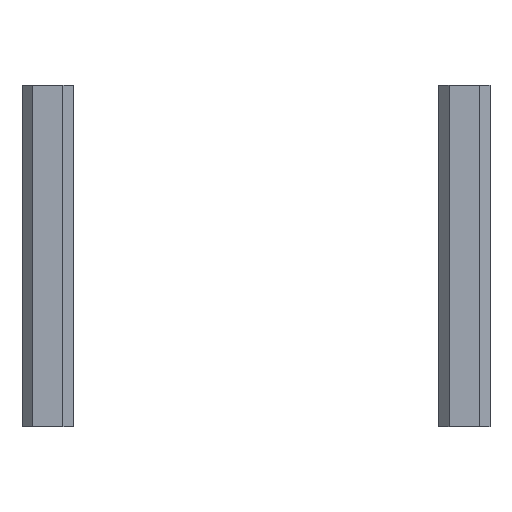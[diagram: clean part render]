
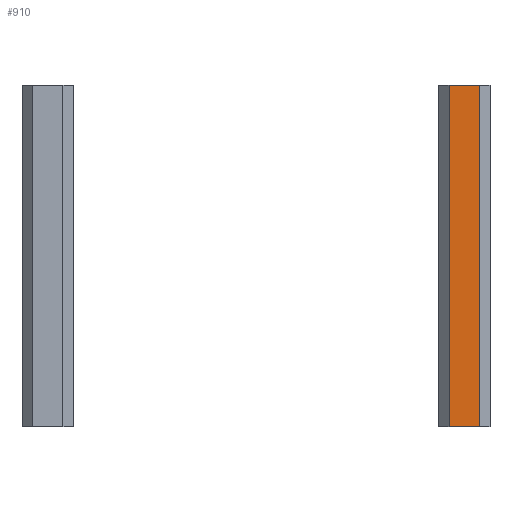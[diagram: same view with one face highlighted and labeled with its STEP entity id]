
A CAD part, left-side view. The second image highlights one B-rep face of the part: STEP entity #910.
In plain terms, the highlighted planar face has unit normal (-1, 0, 0).
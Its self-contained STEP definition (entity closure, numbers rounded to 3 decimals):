
#66=PLANE('',#1026);
#118=FACE_OUTER_BOUND('',#176,.T.);
#176=EDGE_LOOP('',(#717,#718,#719,#720));
#248=LINE('',#1429,#352);
#251=LINE('',#1435,#355);
#252=LINE('',#1437,#356);
#253=LINE('',#1438,#357);
#352=VECTOR('',#1166,10.);
#355=VECTOR('',#1171,10.);
#356=VECTOR('',#1172,10.);
#357=VECTOR('',#1173,10.);
#468=VERTEX_POINT('',#1426);
#469=VERTEX_POINT('',#1428);
#471=VERTEX_POINT('',#1434);
#472=VERTEX_POINT('',#1436);
#560=EDGE_CURVE('',#468,#469,#248,.T.);
#563=EDGE_CURVE('',#471,#468,#251,.T.);
#564=EDGE_CURVE('',#472,#471,#252,.T.);
#565=EDGE_CURVE('',#469,#472,#253,.T.);
#717=ORIENTED_EDGE('',*,*,#560,.F.);
#718=ORIENTED_EDGE('',*,*,#563,.F.);
#719=ORIENTED_EDGE('',*,*,#564,.F.);
#720=ORIENTED_EDGE('',*,*,#565,.F.);
#910=ADVANCED_FACE('',(#118),#66,.T.);
#1026=AXIS2_PLACEMENT_3D('',#1433,#1169,#1170);
#1166=DIRECTION('',(0.,0.,-1.));
#1169=DIRECTION('center_axis',(-1.,0.,0.));
#1170=DIRECTION('ref_axis',(0.,-1.,0.));
#1171=DIRECTION('',(0.,-1.,0.));
#1172=DIRECTION('',(0.,0.,1.));
#1173=DIRECTION('',(0.,1.,0.));
#1426=CARTESIAN_POINT('',(188.49,-81.353,100.));
#1428=CARTESIAN_POINT('',(188.49,-81.353,0.));
#1429=CARTESIAN_POINT('',(188.49,-81.353,0.));
#1433=CARTESIAN_POINT('Origin',(188.49,-69.353,0.));
#1434=CARTESIAN_POINT('',(188.49,-72.353,100.));
#1435=CARTESIAN_POINT('',(188.49,-84.353,100.));
#1436=CARTESIAN_POINT('',(188.49,-72.353,0.));
#1437=CARTESIAN_POINT('',(188.49,-72.353,0.));
#1438=CARTESIAN_POINT('',(188.49,-84.353,0.));
